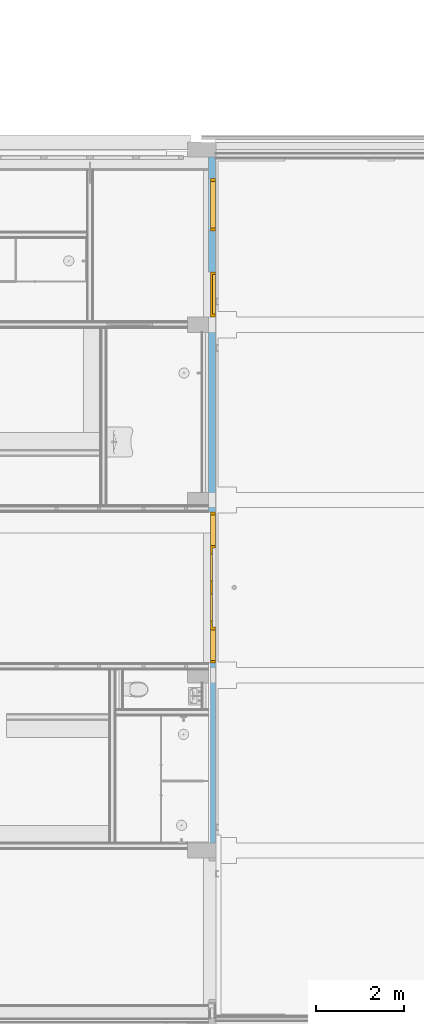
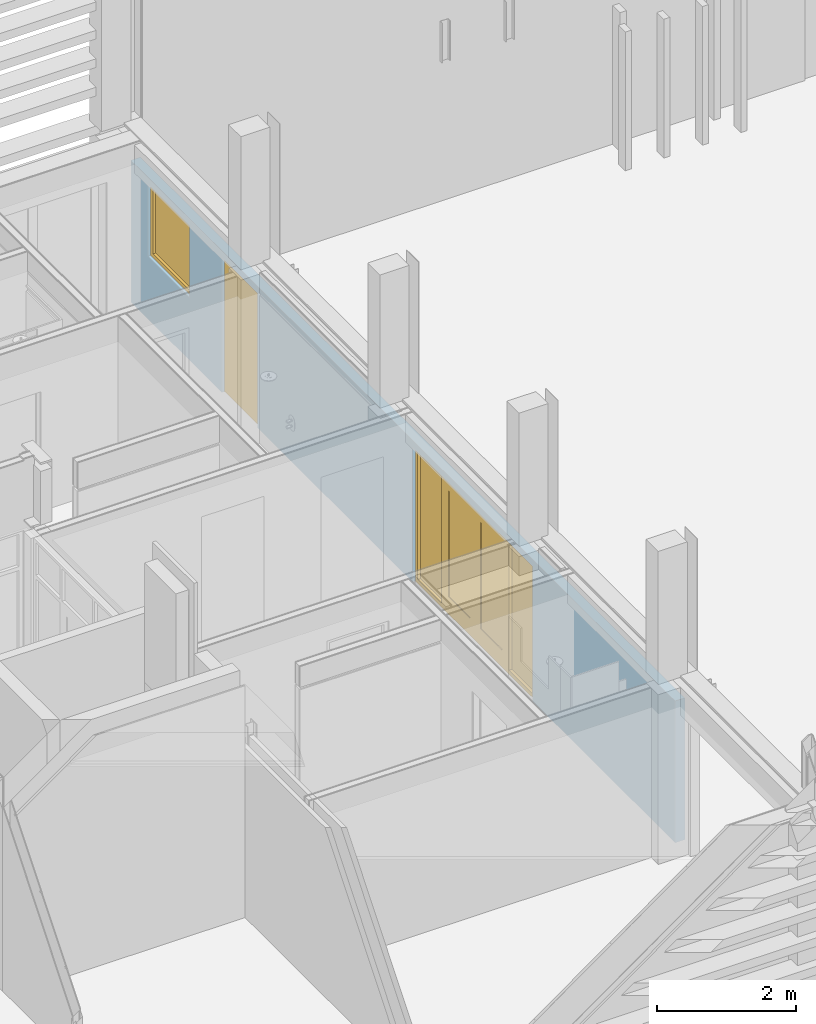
# One storey, part 21 of 109: 2 doors, 1 window, 4 openings, plus 1 element that does not belong to this part.
"""IFC2X3 building model written with IfcOpenShell, lengths in millimetres."""

import ifcopenshell
import ifcopenshell.guid

model = None  # the IFC model being written
_history = None  # IfcOwnerHistory: only IFC2X3 demands one
_inside = {}  # id of a spatial element -> (the spatial element, [elements in it])
_under = {}  # id of a project, library or spatial element -> (it, [spatial elements below it])
_declared = {}  # id of a project -> (the project, [libraries it declares])
_typed = {}  # id of a type object -> (the type object, [elements of that type])
_made_of = {}  # id of a material, layer set ... -> (it, [elements and type objects made of it])


def new_model(schema):
    """Start an empty IFC model of exactly this schema.

    Asked for "IFC4X3", IfcOpenShell would pick the latest addendum, in which some entities
    have other attributes; the version numbers below select the first issue.
    IFC2X3 requires an IfcOwnerHistory on every rooted entity: one is made here for all.
    """
    global model, _history
    if schema == "IFC4X3":
        model = ifcopenshell.file(schema_version=(4, 3, 0, 0))
    else:
        model = ifcopenshell.file(schema=schema)
    _inside.clear()
    _under.clear()
    _declared.clear()
    _typed.clear()
    _made_of.clear()
    _history = None
    if model.schema == "IFC2X3":
        org = make("IfcOrganization", Name="unknown")
        user = make(
            "IfcPersonAndOrganization",
            ThePerson=make("IfcPerson", FamilyName="unknown"),
            TheOrganization=org,
        )
        app = make(
            "IfcApplication",
            ApplicationDeveloper=org,
            Version="unknown",
            ApplicationFullName="unknown",
            ApplicationIdentifier="unknown",
        )
        _history = make(
            "IfcOwnerHistory",
            OwningUser=user,
            OwningApplication=app,
            ChangeAction="ADDED",
            CreationDate=0,
        )
    return model


def make(cls, **values):
    """One entity of the class cls with the attributes given. An attribute that is None is left unset."""
    return model.create_entity(
        cls, **{name: value for name, value in values.items() if value is not None}
    )


def entity(cls, *values):
    """Any entity or typed value of the class cls, its attributes in the order of the schema. None: left unset."""
    e = model.create_entity(cls)
    for i, value in enumerate(values):
        if value is not None:
            e[i] = value
    return e


def rooted(cls, **values):
    """An entity with a GlobalId (a new one), such as an element, a storey or a relation."""
    return make(cls, GlobalId=ifcopenshell.guid.new(), OwnerHistory=_history, **values)


def si_unit(unit_type, name, prefix=None):
    """IfcSIUnit, for example si_unit("LENGTHUNIT", "METRE", prefix="MILLI")."""
    return make("IfcSIUnit", UnitType=unit_type, Prefix=prefix, Name=name)


def converted_unit(unit_type, name, factor, base, dimensions=None, offset=None):
    """IfcConversionBasedUnit, such as the inch: factor (a typed value) times the base unit."""
    return make(
        "IfcConversionBasedUnit"
        if offset is None
        else "IfcConversionBasedUnitWithOffset",
        ConversionOffset=offset,
        Dimensions=None
        if dimensions is None
        else entity("IfcDimensionalExponents", *dimensions),
        UnitType=unit_type,
        Name=name,
        ConversionFactor=make(
            "IfcMeasureWithUnit", ValueComponent=factor, UnitComponent=base
        ),
    )


def derived_unit(unit_type, elements):
    """IfcDerivedUnit: a product of units, each with its exponent."""
    return make(
        "IfcDerivedUnit",
        Elements=[
            make("IfcDerivedUnitElement", Unit=unit, Exponent=power)
            for unit, power in elements
        ],
        UnitType=unit_type,
    )


def money_unit(currency):
    """IfcMonetaryUnit."""
    return make("IfcMonetaryUnit", Currency=currency)


def assignment(units):
    """IfcUnitAssignment: the units of a project."""
    return None if units is None else make("IfcUnitAssignment", Units=units)


def point(xyz):
    """IfcCartesianPoint."""
    return None if xyz is None else make("IfcCartesianPoint", Coordinates=xyz)


def direction(xyz):
    """IfcDirection."""
    return None if xyz is None else make("IfcDirection", DirectionRatios=xyz)


def frame(location, z_axis=None, x_axis=None):
    """IfcAxis2Placement3D, a coordinate frame: its origin and axes. An axis left out is left unset."""
    return make(
        "IfcAxis2Placement3D",
        Location=point(location),
        Axis=direction(z_axis),
        RefDirection=direction(x_axis),
    )


def origin_with_axes():
    """The frame at (0, 0, 0) with the z axis (0, 0, 1) and the x axis (1, 0, 0) written out."""
    return frame((0.0, 0.0, 0.0), z_axis=(0.0, 0.0, 1.0), x_axis=(1.0, 0.0, 0.0))


def place(relative_to, where):
    """IfcLocalPlacement: puts the frame where relative to a parent placement (None: the world)."""
    return make(
        "IfcLocalPlacement", PlacementRelTo=relative_to, RelativePlacement=where
    )


def context(
    kind, dimensions, precision=None, world=None, true_north=None, identifier=None
):
    """IfcGeometricRepresentationContext, for example the 3D "Model" context."""
    return make(
        "IfcGeometricRepresentationContext",
        ContextIdentifier=identifier,
        ContextType=kind,
        CoordinateSpaceDimension=dimensions,
        Precision=precision,
        WorldCoordinateSystem=world,
        TrueNorth=true_north,
    )


def subcontext(parent, identifier, kind, view, scale=None):
    """IfcGeometricRepresentationSubContext, for example "Body" below "Model"."""
    return make(
        "IfcGeometricRepresentationSubContext",
        ContextIdentifier=identifier,
        ContextType=kind,
        ParentContext=parent,
        TargetScale=scale,
        TargetView=view,
    )


def project(units=None, contexts=None):
    """IfcProject with its units and contexts."""
    return rooted(
        "IfcProject",
        Name="project",
        RepresentationContexts=contexts,
        UnitsInContext=assignment(units),
    )


def spatial(cls, under=None, at=None, **own):
    """A site, building, storey or space (cls), placed at a placement, below another one or the project."""
    s = rooted(cls, ObjectPlacement=at, **own)
    if under is not None:
        _under.setdefault(under.id(), (under, []))[1].append(s)
    return s


def faces_of(points, faces, orient=None, outer=None):
    """IfcFace entities. A face is a list of loops; a loop is a list of indices into points, from 0.

    orient and outer hold one flag for each loop. By default every Orientation is true, the
    first loop of a face is its IfcFaceOuterBound and the others are IfcFaceBound.
    """
    made = []
    for i, loops in enumerate(faces):
        bounds = []
        for j, loop in enumerate(loops):
            is_outer = j == 0 if outer is None else outer[i][j]
            bounds.append(
                make(
                    "IfcFaceOuterBound" if is_outer else "IfcFaceBound",
                    Bound=make("IfcPolyLoop", Polygon=[points[k] for k in loop]),
                    Orientation=True if orient is None else orient[i][j],
                )
            )
        made.append(make("IfcFace", Bounds=bounds))
    return made


def open_shell(faces, orient=None, outer=None):
    """The faces of one IfcOpenShell. surface_model builds it on its shared points."""
    return ("IfcOpenShell", faces, orient, outer)


def faceted_brep(points, faces, orient=None, outer=None, voids=None):
    """IfcFacetedBrep: a solid bounded by flat faces; with voids (closed shells), ...WithVoids."""
    shared = [point(p) for p in points]
    hull = make("IfcClosedShell", CfsFaces=faces_of(shared, faces, orient, outer))
    if voids is None:
        return make("IfcFacetedBrep", Outer=hull)
    return make(
        "IfcFacetedBrepWithVoids",
        Outer=hull,
        Voids=[
            make(cls, CfsFaces=faces_of(shared, fs, o, b)) for cls, fs, o, b in voids
        ],
    )


def surface_model(cls, points, shells):
    """IfcFaceBasedSurfaceModel or IfcShellBasedSurfaceModel (cls): surfaces that need not close."""
    shared = [point(p) for p in points]
    made = [make(c, CfsFaces=faces_of(shared, fs, o, b)) for c, fs, o, b in shells]
    if cls == "IfcFaceBasedSurfaceModel":
        return make(cls, FbsmFaces=made)
    return make(cls, SbsmBoundary=made)


def shape(context_of_items, identifier, shape_type, items):
    """IfcShapeRepresentation: the items that make up one representation, for example the "Body"."""
    return make(
        "IfcShapeRepresentation",
        ContextOfItems=context_of_items,
        RepresentationIdentifier=identifier,
        RepresentationType=shape_type,
        Items=items,
    )


def material(Name=None, Category=None):
    """IfcMaterial."""
    return make("IfcMaterial", Name=Name, Category=Category)


def made_of(thing, what):
    """Note that an element or type object is made of a material, layer set ...; save() writes the relation."""
    if what is not None:
        _made_of.setdefault(what.id(), (what, []))[1].append(thing)
    return thing


def type_object(cls, material=None, **own):
    """A type object (cls), such as IfcWallType, which elements share."""
    return made_of(rooted(cls, **own), material)


def element(
    cls,
    number,
    at=None,
    inside=None,
    cuts=None,
    type_object=None,
    material=None,
    context=None,
    identifier="Body",
    shape_type=None,
    held_by="IfcProductDefinitionShape",
    body=None,
    shapes=None,
    **own,
):
    """One element of the class cls, such as IfcWall. Its Tag is "e" and its number.

    at: its placement. inside: the storey or other place that contains it. cuts: it is an
    opening in that element (IfcRelVoidsElement). A single representation is given by context,
    identifier, shape_type and body (its items); several are given by shapes. held_by: the class
    of the entity that holds the representations. save() writes the other relations.
    """
    e = rooted(cls, Tag="e%d" % number, ObjectPlacement=at, **own)
    if body is not None:
        shapes = [shape(context, identifier, shape_type, body)]
    if shapes is not None:
        e.Representation = make(held_by, Representations=shapes)
    if inside is not None:
        _inside.setdefault(inside.id(), (inside, []))[1].append(e)
    if cuts is not None:
        rooted(
            "IfcRelVoidsElement", RelatingBuildingElement=cuts, RelatedOpeningElement=e
        )
    if type_object is not None:
        _typed.setdefault(type_object.id(), (type_object, []))[1].append(e)
    return made_of(e, material)


def fill(opening, filler):
    """IfcRelFillsElement: the door or window that sits in an opening."""
    return rooted(
        "IfcRelFillsElement",
        RelatingOpeningElement=opening,
        RelatedBuildingElement=filler,
    )


def aggregate(whole, parts):
    """IfcRelAggregates: a whole, such as a stair, and the parts it consists of."""
    return rooted("IfcRelAggregates", RelatingObject=whole, RelatedObjects=parts)


def save(model, path):
    """Write the relations noted so far, then the file.

    IfcRelAggregates (storeys below a building ...), IfcRelContainedInSpatialStructure (elements
    in a storey), IfcRelDefinesByType, IfcRelAssociatesMaterial and IfcRelDeclares: one each for
    every whole, place, type object, material and project.
    """
    for whole, parts in _under.values():
        aggregate(whole, parts)
    for where, things in _inside.values():
        rooted(
            "IfcRelContainedInSpatialStructure",
            RelatedElements=things,
            RelatingStructure=where,
        )
    for kind, things in _typed.values():
        rooted("IfcRelDefinesByType", RelatedObjects=things, RelatingType=kind)
    for what, things in _made_of.values():
        rooted("IfcRelAssociatesMaterial", RelatedObjects=things, RelatingMaterial=what)
    for by, libraries in _declared.values():
        rooted("IfcRelDeclares", RelatingContext=by, RelatedDefinitions=libraries)
    model.write(path)


model = new_model("IFC2X3")

# Units and contexts
model_context = context("Model", 3, precision=0.01, world=origin_with_axes(), true_north=direction((0.0, 1.0)))
body_context = subcontext(model_context, "Body", "Model", "MODEL_VIEW")
ifc_project = project(units=[si_unit("LENGTHUNIT", "METRE", prefix="MILLI"), si_unit("AREAUNIT", "SQUARE_METRE"), si_unit("VOLUMEUNIT", "CUBIC_METRE"), converted_unit("PLANEANGLEUNIT", "DEGREE", entity("IfcPlaneAngleMeasure", 0.0174532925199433), si_unit("PLANEANGLEUNIT", "RADIAN"), dimensions=[0, 0, 0, 0, 0, 0, 0]), money_unit("EUR"), converted_unit("TIMEUNIT", "Year", entity("IfcTimeMeasure", 31557600.0), si_unit("TIMEUNIT", "SECOND"), dimensions=[0, 0, 1, 0, 0, 0, 0]), si_unit("MASSUNIT", "GRAM", prefix="KILO"), si_unit("THERMODYNAMICTEMPERATUREUNIT", "DEGREE_CELSIUS"), si_unit("LUMINOUSINTENSITYUNIT", "LUMEN"), si_unit("ENERGYUNIT", "JOULE", prefix="MEGA"), derived_unit("THERMALCONDUCTANCEUNIT", [(si_unit("POWERUNIT", "WATT"), 1), (si_unit("LENGTHUNIT", "METRE"), -1), (si_unit("THERMODYNAMICTEMPERATUREUNIT", "KELVIN"), -1)]), derived_unit("SPECIFICHEATCAPACITYUNIT", [(si_unit("ENERGYUNIT", "JOULE"), 1), (si_unit("MASSUNIT", "GRAM", prefix="KILO"), -1), (si_unit("THERMODYNAMICTEMPERATUREUNIT", "KELVIN"), -1)]), derived_unit("MASSDENSITYUNIT", [(si_unit("MASSUNIT", "GRAM", prefix="KILO"), 1), (si_unit("VOLUMEUNIT", "CUBIC_METRE"), -1)])], contexts=[model_context])

# Site, building, storey
site_placement = place(None, origin_with_axes())
site = spatial("IfcSite", under=ifc_project, at=site_placement, Name="<site naam>", CompositionType="ELEMENT")
building_placement = place(site_placement, origin_with_axes())
building = spatial("IfcBuilding", under=site, at=building_placement, Name="<Naam gebouw>", CompositionType="ELEMENT")
storey_placement = place(building_placement, origin_with_axes())
storey = spatial("IfcBuildingStorey", under=building, at=storey_placement, Name="00 Begane grond", CompositionType="ELEMENT", Elevation=0.0)

# Wall, openings, window, doors
ifc_material = material(Name="beton")
wall_type = type_object("IfcWallType", Name="beton 160", PredefinedType="NOTDEFINED")
wall_placement = place(storey_placement, frame((58317.78284470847, 19824.99999999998, 0.0), z_axis=(0.0, 0.0, 1.0), x_axis=(0.0, -1.0, 0.0)))
wall = element("IfcWall", 1, at=wall_placement, inside=storey, type_object=wall_type, material=ifc_material, Name="22_Binnenwand_beton", context=body_context, shape_type="Brep", body=[
    faceted_brep([(0.0, 0.0, 0.0), (0.0, -159.9999999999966, 0.0), (0.0, -159.9999999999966, 2487.5), (0.0, 0.0, 2487.5), (15649.99999999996, -160.0000000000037, 0.0), (15649.99999999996, 0.0, 0.0), (15649.99999999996, -160.0000000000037, 2487.5), (15649.99999999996, 0.0, 2487.5)], [[[0, 1, 2, 3]], [[4, 1, 0, 5]], [[1, 4, 6, 2]], [[2, 6, 7, 3]], [[5, 0, 3, 7]], [[4, 5, 7, 6]]]),
])
opening_1_placement = place(wall_placement, frame((9824.999999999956, 0.0, 3187.5), z_axis=(0.0, 0.0, 1.0), x_axis=(1.0, 0.0, 0.0)))
element("IfcOpeningElement", 2, at=opening_1_placement, cuts=wall, Name="22_54-x_305", context=body_context, shape_type="Brep", body=[
    faceted_brep([(-1725.0, -160.9999999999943, 1062.5), (-1725.0, -160.9999999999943, 0.0), (1725.0, -160.9999999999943, 0.0), (1725.0, -160.9999999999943, 1062.5), (-1725.0, 0.9999999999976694, 1062.5), (-1725.0, 0.9999999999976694, 0.0), (1725.0, 0.9999999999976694, 0.0), (1725.0, 0.9999999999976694, 1062.5)], [[[0, 1, 2, 3]], [[4, 5, 1, 0]], [[5, 6, 2, 1]], [[6, 7, 3, 2]], [[7, 4, 0, 3]], [[6, 5, 4, 7]]]),
])
opening_2_placement = place(wall_placement, frame((1089.246352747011, 0.0, 1100.0), z_axis=(0.0, 0.0, 1.0), x_axis=(1.0, 0.0, 0.0)))
opening_2 = element("IfcOpeningElement", 3, at=opening_2_placement, cuts=wall, Name="22_BI-E-21_305", context=body_context, shape_type="Brep", body=[
    faceted_brep([(-600.0000000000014, -160.9999999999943, 1267.0), (-600.0000000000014, -160.9999999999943, 0.0), (600.0000000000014, -160.9999999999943, 0.0), (600.0000000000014, -160.9999999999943, 1267.0), (-600.0000000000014, 0.9999999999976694, 1267.0), (-600.0000000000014, 0.9999999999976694, 0.0), (600.0000000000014, 0.9999999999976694, 0.0), (600.0000000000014, 0.9999999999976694, 1267.0)], [[[0, 1, 2, 3]], [[4, 5, 1, 0]], [[5, 6, 2, 1]], [[6, 7, 3, 2]], [[7, 4, 0, 3]], [[6, 5, 4, 7]]]),
])
opening_3_placement = place(wall_placement, frame((9824.999999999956, 0.0, 0.0), z_axis=(0.0, 0.0, 1.0), x_axis=(1.0, 0.0, 0.0)))
opening_3 = element("IfcOpeningElement", 4, at=opening_3_placement, cuts=wall, Name="22_BI-D-05_305", context=body_context, shape_type="Brep", body=[
    faceted_brep([(-1724.999999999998, -160.9999999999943, 2367.0), (-1724.999999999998, -160.9999999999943, 0.0), (1724.999999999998, -160.9999999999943, 0.0), (1724.999999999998, -160.9999999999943, 2367.0), (-1724.999999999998, 0.9999999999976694, 2367.0), (-1724.999999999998, 0.9999999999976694, 0.0), (1724.999999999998, 0.9999999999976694, 0.0), (1724.999999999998, 0.9999999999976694, 2367.0)], [[[0, 1, 2, 3]], [[4, 5, 1, 0]], [[5, 6, 2, 1]], [[6, 7, 3, 2]], [[7, 4, 0, 3]], [[6, 5, 4, 7]]]),
])
opening_4_placement = place(wall_placement, frame((3132.999999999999, 0.0, 0.0), z_axis=(0.0, 0.0, 1.0), x_axis=(1.0, 0.0, 0.0)))
opening_4 = element("IfcOpeningElement", 5, at=opening_4_placement, cuts=wall, Name="22_BI-A-05_305", context=body_context, shape_type="Brep", body=[
    faceted_brep([(-516.9999999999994, -160.9999999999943, 2367.0), (-516.9999999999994, -160.9999999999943, 0.0), (516.9999999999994, -160.9999999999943, 0.0), (516.9999999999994, -160.9999999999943, 2367.0), (-516.9999999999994, 0.9999999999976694, 2367.0), (-516.9999999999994, 0.9999999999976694, 0.0), (516.9999999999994, 0.9999999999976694, 0.0), (516.9999999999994, 0.9999999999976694, 2367.0)], [[[0, 1, 2, 3]], [[4, 5, 1, 0]], [[5, 6, 2, 1]], [[6, 7, 3, 2]], [[7, 4, 0, 3]], [[6, 5, 4, 7]]]),
])
window_style = type_object("IfcWindowStyle", Name="R1 27", ConstructionType="NOTDEFINED", OperationType="SINGLE_PANEL", ParameterTakesPrecedence=False, Sizeable=False)
window_placement = place(opening_2_placement, frame((600.0000000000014, 0.0, 0.0), z_axis=(0.0, 0.0, 1.0), x_axis=(-1.0, 0.0, 0.0)))
window = element("IfcWindow", 6, at=window_placement, inside=storey, type_object=window_style, Name="22_BI-E-21_305", ObjectType="WINDOW", OverallHeight=1267.0, OverallWidth=1200.0, context=body_context, shape_type="SurfaceModel", body=[
    faceted_brep([(67.00000000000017, 0.0, 1200.0), (67.00000000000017, 113.9999999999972, 1200.0), (0.0, 113.9999999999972, 1200.0), (0.0, 0.0, 1200.0), (67.00000000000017, 0.0, 66.99999999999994), (67.00000000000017, 113.9999999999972, 66.99999999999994), (0.0, 113.9999999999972, 66.99999999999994), (0.0, 0.0, 66.99999999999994)], [[[0, 1, 2, 3]], [[4, 5, 1, 0]], [[1, 5, 6, 2]], [[3, 2, 6, 7]], [[0, 3, 7, 4]], [[7, 6, 5, 4]]]),
    faceted_brep([(1133.000000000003, 0.0, 66.99999999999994), (1133.000000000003, 113.9999999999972, 66.99999999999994), (1200.000000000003, 113.9999999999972, 66.99999999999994), (1200.000000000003, 0.0, 66.99999999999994), (1133.000000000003, 0.0, 1200.0), (1133.000000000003, 113.9999999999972, 1200.0), (1200.000000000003, 113.9999999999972, 1200.0), (1200.000000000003, 0.0, 1200.0)], [[[0, 1, 2, 3]], [[4, 5, 1, 0]], [[1, 5, 6, 2]], [[3, 2, 6, 7]], [[0, 3, 7, 4]], [[7, 6, 5, 4]]]),
    faceted_brep([(67.00000000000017, 0.0, 66.99999999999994), (67.00000000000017, 113.9999999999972, 66.99999999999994), (0.0, 113.9999999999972, 66.99999999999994), (0.0, 0.0, 66.99999999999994), (1133.000000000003, 0.0, 66.99999999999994), (1133.000000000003, 113.9999999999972, 66.99999999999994), (1200.000000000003, 113.9999999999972, 66.99999999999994), (1200.000000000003, 113.9999999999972, 0.0), (0.0, 113.9999999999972, 0.0), (0.0, 0.0, 0.0), (1200.000000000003, 0.0, 0.0), (1200.000000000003, 0.0, 66.99999999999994)], [[[0, 1, 2, 3]], [[4, 5, 1, 0]], [[1, 5, 6, 7, 8, 2]], [[3, 2, 8, 9]], [[0, 3, 9, 10, 11, 4]], [[11, 6, 5, 4]], [[10, 7, 6, 11]], [[9, 8, 7, 10]]]),
    faceted_brep([(1133.000000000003, 0.0, 1200.0), (1133.000000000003, 113.9999999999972, 1200.0), (1200.000000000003, 113.9999999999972, 1200.0), (1200.000000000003, 0.0, 1200.0), (67.00000000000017, 0.0, 1200.0), (67.00000000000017, 113.9999999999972, 1200.0), (0.0, 113.9999999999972, 1200.0), (0.0, 113.9999999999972, 1267.0), (1200.000000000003, 113.9999999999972, 1267.0), (1200.000000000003, 0.0, 1267.0), (0.0, 0.0, 1267.0), (0.0, 0.0, 1200.0)], [[[0, 1, 2, 3]], [[4, 5, 1, 0]], [[1, 5, 6, 7, 8, 2]], [[3, 2, 8, 9]], [[0, 3, 9, 10, 11, 4]], [[11, 6, 5, 4]], [[10, 7, 6, 11]], [[9, 8, 7, 10]]]),
    surface_model("IfcShellBasedSurfaceModel", [(67.00000000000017, 49.99999999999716, 66.99999999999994), (1133.000000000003, 49.99999999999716, 66.99999999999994), (1133.000000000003, 49.99999999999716, 1200.0), (67.00000000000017, 49.99999999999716, 1200.0)], [open_shell([[[0, 1, 2, 3]]])]),
    surface_model("IfcShellBasedSurfaceModel", [(67.00000000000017, 70.00000000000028, 66.99999999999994), (67.00000000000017, 70.00000000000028, 1200.0), (1133.000000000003, 70.00000000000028, 1200.0), (1133.000000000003, 70.00000000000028, 66.99999999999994)], [open_shell([[[0, 1, 2, 3]]])]),
])
fill(opening_2, window)
door_style_1 = type_object("IfcDoorStyle", Name="D2 zl2 27", ConstructionType="NOTDEFINED", OperationType="USERDEFINED", ParameterTakesPrecedence=False, Sizeable=False)
door_1_placement = place(opening_3_placement, frame((1724.999999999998, 0.0, 0.0), z_axis=(0.0, 0.0, 1.0), x_axis=(-1.0, 0.0, 0.0)))
door_1 = element("IfcDoor", 7, at=door_1_placement, inside=storey, type_object=door_style_1, Name="22_BI-D-05_305", ObjectType="DOOR", OverallHeight=2367.0, OverallWidth=3450.0, context=body_context, shape_type="SurfaceModel", body=[
    faceted_brep([(3449.999999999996, 113.9999999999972, 0.0), (3449.999999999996, 0.0, 0.0), (3382.999999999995, 0.0, 0.0), (3382.999999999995, 113.9999999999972, 0.0), (3449.999999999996, 113.9999999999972, 2300.0), (3449.999999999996, 0.0, 2300.0), (3382.999999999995, 0.0, 2300.0), (3382.999999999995, 0.0, 66.99999999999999), (3382.999999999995, 113.9999999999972, 67.0), (3382.999999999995, 113.9999999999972, 2300.0)], [[[0, 1, 2, 3]], [[4, 5, 1, 0]], [[1, 5, 6, 7, 2]], [[3, 2, 7, 8]], [[0, 3, 8, 9, 4]], [[9, 6, 5, 4]], [[8, 7, 6, 9]]]),
    faceted_brep([(2624.999999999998, 73.99999999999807, 0.0), (2624.999999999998, 0.0, 0.0), (2624.999999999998, 0.0, 2300.0), (2624.999999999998, 73.99999999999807, 2300.0), (2641.999999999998, 73.99999999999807, 0.0), (2641.999999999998, 113.9999999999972, 0.0), (2691.999999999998, 113.9999999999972, 0.0), (2691.999999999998, 0.0, 0.0), (2691.999999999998, 0.0, 66.99999999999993), (2691.999999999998, 0.0, 2300.0), (2641.999999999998, 73.99999999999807, 2300.0), (2691.999999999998, 113.9999999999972, 2300.0), (2641.999999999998, 113.9999999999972, 2300.0), (2691.999999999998, 113.9999999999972, 66.99999999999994)], [[[0, 1, 2, 3]], [[4, 5, 6, 7, 1, 0]], [[7, 8, 9, 2, 1]], [[10, 3, 2, 9, 11, 12]], [[10, 4, 0, 3]], [[12, 5, 4, 10]], [[12, 11, 13, 6, 5]], [[6, 13, 8, 7]], [[13, 11, 9, 8]]]),
    faceted_brep([(3382.999999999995, 113.9999999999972, 67.0), (3382.999999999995, 0.0, 66.99999999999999), (3382.999999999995, 0.0, 0.0), (3382.999999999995, 113.9999999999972, 0.0), (2691.999999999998, 113.9999999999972, 67.0), (2691.999999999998, 0.0, 66.99999999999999), (2691.999999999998, 0.0, 0.0), (2691.999999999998, 113.9999999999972, 0.0)], [[[0, 1, 2, 3]], [[4, 5, 1, 0]], [[1, 5, 6, 2]], [[3, 2, 6, 7]], [[0, 3, 7, 4]], [[7, 6, 5, 4]]]),
    faceted_brep([(0.0, 113.9999999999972, 0.0), (0.0, 0.0, 0.0), (0.0, 0.0, 2300.0), (0.0, 113.9999999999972, 2300.0), (67.00000000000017, 113.9999999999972, 0.0), (67.00000000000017, 0.0, 0.0), (67.00000000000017, 0.0, 66.99999999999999), (67.00000000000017, 0.0, 2300.0), (67.00000000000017, 113.9999999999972, 2300.0), (67.00000000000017, 113.9999999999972, 67.0)], [[[0, 1, 2, 3]], [[4, 5, 1, 0]], [[1, 5, 6, 7, 2]], [[3, 2, 7, 8]], [[0, 3, 8, 9, 4]], [[9, 6, 5, 4]], [[8, 7, 6, 9]]]),
    faceted_brep([(807.9999999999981, 73.99999999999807, 2300.0), (807.9999999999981, 113.9999999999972, 2300.0), (757.9999999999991, 113.9999999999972, 2300.0), (757.9999999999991, 0.0, 2300.0), (824.9999999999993, 0.0, 2300.0), (824.9999999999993, 73.99999999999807, 2300.0), (807.9999999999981, 73.99999999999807, 0.0), (807.9999999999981, 113.9999999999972, 0.0), (757.9999999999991, 113.9999999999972, 0.0), (757.9999999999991, 113.9999999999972, 66.99999999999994), (757.9999999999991, 0.0, 66.99999999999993), (824.9999999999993, 0.0, 0.0), (757.9999999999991, 0.0, 0.0), (824.9999999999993, 73.99999999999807, 0.0)], [[[0, 1, 2, 3, 4, 5]], [[0, 6, 7, 1]], [[7, 8, 9, 2, 1]], [[2, 9, 10, 3]], [[11, 4, 3, 10, 12]], [[5, 4, 11, 13]], [[5, 13, 6, 0]], [[6, 13, 11, 12, 8, 7]], [[9, 8, 12, 10]]]),
    faceted_brep([(757.9999999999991, 113.9999999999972, 67.0), (757.9999999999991, 0.0, 66.99999999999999), (757.9999999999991, 0.0, 0.0), (757.9999999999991, 113.9999999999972, 0.0), (67.00000000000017, 113.9999999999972, 67.0), (67.00000000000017, 0.0, 66.99999999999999), (67.00000000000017, 0.0, 0.0), (67.00000000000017, 113.9999999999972, 0.0)], [[[0, 1, 2, 3]], [[4, 5, 1, 0]], [[1, 5, 6, 2]], [[3, 2, 6, 7]], [[0, 3, 7, 4]], [[7, 6, 5, 4]]]),
    faceted_brep([(2641.999999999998, 113.9999999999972, 2317.0), (807.9999999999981, 113.9999999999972, 2317.0), (807.9999999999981, 113.9999999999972, 2300.0), (757.9999999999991, 113.9999999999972, 2300.0), (67.00000000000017, 113.9999999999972, 2300.0), (0.0, 113.9999999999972, 2300.0), (0.0, 113.9999999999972, 2367.0), (3449.999999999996, 113.9999999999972, 2367.0), (3449.999999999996, 113.9999999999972, 2300.0), (3382.999999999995, 113.9999999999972, 2300.0), (2691.999999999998, 113.9999999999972, 2300.0), (2641.999999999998, 113.9999999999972, 2300.0), (2641.999999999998, 73.99999999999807, 2317.0), (807.9999999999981, 73.99999999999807, 2317.0), (807.9999999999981, 73.99999999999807, 2300.0), (824.9999999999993, 73.99999999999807, 2300.0), (824.9999999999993, 0.0, 2300.0), (757.9999999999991, 0.0, 2300.0), (67.00000000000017, 0.0, 2300.0), (0.0, 0.0, 2300.0), (0.0, 0.0, 2367.0), (3449.999999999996, 0.0, 2367.0), (3449.999999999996, 0.0, 2300.0), (3382.999999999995, 0.0, 2300.0), (2691.999999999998, 0.0, 2300.0), (2641.999999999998, 73.99999999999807, 2300.0), (2624.999999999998, 0.0, 2300.0)], [[[0, 1, 2, 3, 4, 5, 6, 7, 8, 9, 10, 11]], [[0, 12, 13, 1]], [[1, 13, 14, 2]], [[14, 15, 16, 17, 18, 4, 3, 2]], [[5, 4, 18, 19]], [[6, 5, 19, 20]], [[7, 6, 20, 21]], [[8, 7, 21, 22]], [[9, 8, 22, 23]], [[10, 9, 23, 24]], [[25, 11, 10, 24, 26, 16, 15]], [[11, 25, 12, 0]], [[14, 13, 12, 25, 15]], [[18, 17, 16, 26, 24, 23, 22, 21, 20, 19]]]),
    faceted_brep([(807.9999999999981, 113.9999999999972, 300.0), (957.9999999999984, 113.9999999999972, 300.0), (957.9999999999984, 73.99999999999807, 300.0), (807.9999999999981, 73.99999999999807, 300.0), (807.9999999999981, 113.9999999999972, 2167.0), (957.9999999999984, 113.9999999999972, 2167.0), (957.9999999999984, 73.99999999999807, 2167.0), (807.9999999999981, 73.99999999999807, 2167.0)], [[[0, 1, 2, 3]], [[0, 4, 5, 1]], [[1, 5, 6, 2]], [[3, 2, 6, 7]], [[4, 0, 3, 7]], [[5, 4, 7, 6]]]),
    faceted_brep([(1724.999999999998, 113.9999999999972, 300.0), (1724.999999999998, 113.9999999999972, 2167.0), (1724.999999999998, 73.99999999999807, 2167.0), (1724.999999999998, 73.99999999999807, 300.0), (1574.999999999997, 113.9999999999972, 300.0), (1574.999999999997, 113.9999999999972, 2167.0), (1574.999999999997, 73.99999999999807, 2167.0), (1574.999999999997, 73.99999999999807, 300.0)], [[[0, 1, 2, 3]], [[0, 4, 5, 1]], [[1, 5, 6, 2]], [[3, 2, 6, 7]], [[4, 0, 3, 7]], [[5, 4, 7, 6]]]),
    faceted_brep([(807.9999999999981, 113.9999999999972, 0.0), (1724.999999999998, 113.9999999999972, 0.0), (1724.999999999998, 73.99999999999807, 0.0), (807.9999999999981, 73.99999999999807, 0.0), (807.9999999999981, 113.9999999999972, 300.0), (957.9999999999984, 113.9999999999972, 300.0), (1574.999999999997, 113.9999999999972, 300.0), (1724.999999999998, 113.9999999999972, 300.0), (1724.999999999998, 73.99999999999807, 300.0), (1574.999999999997, 73.99999999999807, 300.0), (957.9999999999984, 73.99999999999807, 300.0), (807.9999999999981, 73.99999999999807, 300.0)], [[[0, 1, 2, 3]], [[0, 4, 5, 6, 7, 1]], [[1, 7, 8, 2]], [[3, 2, 8, 9, 10, 11]], [[4, 0, 3, 11]], [[5, 4, 11, 10]], [[6, 5, 10, 9]], [[7, 6, 9, 8]]]),
    faceted_brep([(807.9999999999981, 113.9999999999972, 2317.0), (807.9999999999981, 113.9999999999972, 2167.0), (807.9999999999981, 73.99999999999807, 2167.0), (807.9999999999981, 73.99999999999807, 2317.0), (1724.999999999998, 113.9999999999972, 2317.0), (1724.999999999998, 113.9999999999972, 2167.0), (1574.999999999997, 113.9999999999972, 2167.0), (957.9999999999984, 113.9999999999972, 2167.0), (957.9999999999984, 73.99999999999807, 2167.0), (1574.999999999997, 73.99999999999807, 2167.0), (1724.999999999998, 73.99999999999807, 2167.0), (1724.999999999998, 73.99999999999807, 2317.0)], [[[0, 1, 2, 3]], [[0, 4, 5, 6, 7, 1]], [[1, 7, 8, 2]], [[3, 2, 8, 9, 10, 11]], [[4, 0, 3, 11]], [[5, 4, 11, 10]], [[6, 5, 10, 9]], [[7, 6, 9, 8]]]),
    surface_model("IfcShellBasedSurfaceModel", [(957.9999999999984, 99.99999999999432, 300.0), (957.9999999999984, 99.99999999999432, 2167.0), (1574.999999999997, 99.99999999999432, 2167.0), (1574.999999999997, 99.99999999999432, 300.0)], [open_shell([[[0, 1, 2, 3]]])]),
    surface_model("IfcShellBasedSurfaceModel", [(957.9999999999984, 88.00000000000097, 300.0), (1574.999999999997, 87.99999999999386, 300.0), (1574.999999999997, 87.99999999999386, 2167.0), (957.9999999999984, 87.99999999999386, 2167.0)], [open_shell([[[0, 1, 2, 3]]])]),
    faceted_brep([(2641.999999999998, 113.9999999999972, 300.0), (2641.999999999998, 73.99999999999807, 300.0), (2491.999999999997, 73.99999999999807, 300.0), (2491.999999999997, 113.9999999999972, 300.0), (2641.999999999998, 113.9999999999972, 2167.0), (2641.999999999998, 73.99999999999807, 2167.0), (2491.999999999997, 73.99999999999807, 2167.0), (2491.999999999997, 113.9999999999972, 2167.0)], [[[0, 1, 2, 3]], [[4, 5, 1, 0]], [[1, 5, 6, 2]], [[3, 2, 6, 7]], [[0, 3, 7, 4]], [[7, 6, 5, 4]]]),
    faceted_brep([(1724.999999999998, 113.9999999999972, 300.0), (1724.999999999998, 73.99999999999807, 300.0), (1724.999999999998, 73.99999999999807, 2167.0), (1724.999999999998, 113.9999999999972, 2167.0), (1874.999999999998, 113.9999999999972, 300.0), (1874.999999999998, 73.99999999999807, 300.0), (1874.999999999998, 73.99999999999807, 2167.0), (1874.999999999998, 113.9999999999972, 2167.0)], [[[0, 1, 2, 3]], [[4, 5, 1, 0]], [[1, 5, 6, 2]], [[3, 2, 6, 7]], [[0, 3, 7, 4]], [[7, 6, 5, 4]]]),
    faceted_brep([(2641.999999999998, 113.9999999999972, 0.0), (2641.999999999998, 73.99999999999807, 0.0), (1724.999999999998, 73.99999999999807, 0.0), (1724.999999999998, 113.9999999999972, 0.0), (2641.999999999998, 113.9999999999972, 300.0), (2641.999999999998, 73.99999999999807, 300.0), (2491.999999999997, 73.99999999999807, 300.0), (1874.999999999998, 73.99999999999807, 300.0), (1724.999999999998, 73.99999999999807, 300.0), (1724.999999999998, 113.9999999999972, 300.0), (1874.999999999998, 113.9999999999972, 300.0), (2491.999999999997, 113.9999999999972, 300.0)], [[[0, 1, 2, 3]], [[4, 5, 1, 0]], [[1, 5, 6, 7, 8, 2]], [[3, 2, 8, 9]], [[0, 3, 9, 10, 11, 4]], [[11, 6, 5, 4]], [[10, 7, 6, 11]], [[9, 8, 7, 10]]]),
    faceted_brep([(2641.999999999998, 113.9999999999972, 2317.0), (2641.999999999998, 73.99999999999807, 2317.0), (2641.999999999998, 73.99999999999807, 2167.0), (2641.999999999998, 113.9999999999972, 2167.0), (1724.999999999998, 113.9999999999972, 2317.0), (1724.999999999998, 73.99999999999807, 2317.0), (1724.999999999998, 73.99999999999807, 2167.0), (1874.999999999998, 73.99999999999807, 2167.0), (2491.999999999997, 73.99999999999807, 2167.0), (2491.999999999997, 113.9999999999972, 2167.0), (1874.999999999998, 113.9999999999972, 2167.0), (1724.999999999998, 113.9999999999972, 2167.0)], [[[0, 1, 2, 3]], [[4, 5, 1, 0]], [[1, 5, 6, 7, 8, 2]], [[3, 2, 8, 9]], [[0, 3, 9, 10, 11, 4]], [[11, 6, 5, 4]], [[10, 7, 6, 11]], [[9, 8, 7, 10]]]),
    surface_model("IfcShellBasedSurfaceModel", [(2491.999999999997, 99.99999999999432, 300.0), (1874.999999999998, 99.99999999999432, 300.0), (1874.999999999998, 99.99999999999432, 2167.0), (2491.999999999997, 99.99999999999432, 2167.0)], [open_shell([[[0, 1, 2, 3]]])]),
    surface_model("IfcShellBasedSurfaceModel", [(2491.999999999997, 87.99999999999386, 300.0), (2491.999999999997, 87.99999999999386, 2167.0), (1874.999999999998, 87.99999999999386, 2167.0), (1874.999999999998, 87.99999999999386, 300.0)], [open_shell([[[0, 1, 2, 3]]])]),
    surface_model("IfcShellBasedSurfaceModel", [(3382.999999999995, 53.99999999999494, 67.0), (3382.999999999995, 53.99999999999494, 2300.0), (2691.999999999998, 53.99999999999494, 2300.0), (2691.999999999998, 53.99999999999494, 67.0)], [open_shell([[[0, 1, 2, 3]]])]),
    surface_model("IfcShellBasedSurfaceModel", [(3382.999999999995, 65.9999999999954, 67.0), (2691.999999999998, 65.9999999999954, 67.0), (2691.999999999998, 65.9999999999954, 2300.0), (3382.999999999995, 65.9999999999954, 2300.0)], [open_shell([[[0, 1, 2, 3]]])]),
    surface_model("IfcShellBasedSurfaceModel", [(757.9999999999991, 53.99999999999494, 67.0), (757.9999999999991, 53.99999999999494, 2300.0), (67.00000000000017, 53.99999999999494, 2300.0), (67.00000000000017, 53.99999999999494, 67.0)], [open_shell([[[0, 1, 2, 3]]])]),
    surface_model("IfcShellBasedSurfaceModel", [(757.9999999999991, 65.9999999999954, 67.0), (67.00000000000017, 65.9999999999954, 67.0), (67.00000000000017, 65.9999999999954, 2300.0), (757.9999999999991, 65.9999999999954, 2300.0)], [open_shell([[[0, 1, 2, 3]]])]),
])
fill(opening_3, door_1)
door_style_2 = type_object("IfcDoorStyle", Name="D1 27", ConstructionType="NOTDEFINED", OperationType="SINGLE_SWING_LEFT", ParameterTakesPrecedence=False, Sizeable=False)
door_2_placement = place(opening_4_placement, frame((449.9999999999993, 0.0, 0.0), z_axis=(0.0, 0.0, 1.0), x_axis=(-1.0, 0.0, 0.0)))
door_2 = element("IfcDoor", 8, at=door_2_placement, inside=storey, type_object=door_style_2, Name="22_BI-A-05_305", ObjectType="DOOR", OverallHeight=2367.0, OverallWidth=1034.0, context=body_context, shape_type="Brep", body=[
    faceted_brep([(0.0, 0.0, 0.0), (0.0, 0.0, 11.99999999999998), (0.0, 73.99999999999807, 11.99999999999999), (0.0, 73.99999999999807, 0.0), (899.9999999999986, 0.0, 0.0), (899.9999999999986, 0.0, 11.99999999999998), (899.9999999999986, 73.99999999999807, 11.99999999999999), (916.9999999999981, 73.99999999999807, 11.99999999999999), (-16.99999999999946, 73.99999999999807, 11.99999999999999), (-16.99999999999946, 73.99999999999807, 0.0), (916.9999999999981, 73.99999999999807, 0.0), (899.9999999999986, 73.99999999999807, 0.0)], [[[0, 1, 2, 3]], [[4, 5, 1, 0]], [[1, 5, 6, 7, 8, 2]], [[3, 2, 8, 9]], [[0, 3, 9, 10, 11, 4]], [[11, 6, 5, 4]], [[10, 7, 6, 11]], [[9, 8, 7, 10]]]),
    faceted_brep([(899.9999999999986, 73.99999999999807, 0.0), (899.9999999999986, 0.0, 0.0), (899.9999999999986, 0.0, 2300.0), (899.9999999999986, 73.99999999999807, 2300.0), (916.9999999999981, 73.99999999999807, 0.0), (916.9999999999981, 113.9999999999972, 0.0), (966.9999999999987, 113.9999999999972, 0.0), (966.9999999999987, 0.0, 0.0), (966.9999999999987, 0.0, 2300.0), (916.9999999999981, 73.99999999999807, 2300.0), (966.9999999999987, 113.9999999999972, 2300.0), (916.9999999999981, 113.9999999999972, 2300.0)], [[[0, 1, 2, 3]], [[4, 5, 6, 7, 1, 0]], [[1, 7, 8, 2]], [[9, 3, 2, 8, 10, 11]], [[9, 4, 0, 3]], [[11, 5, 4, 9]], [[11, 10, 6, 5]], [[6, 10, 8, 7]]]),
    faceted_brep([(-16.99999999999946, 73.99999999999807, 2300.0), (-16.99999999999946, 113.9999999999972, 2300.0), (-67.00000000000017, 113.9999999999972, 2300.0), (-67.00000000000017, 0.0, 2300.0), (0.0, 0.0, 2300.0), (0.0, 73.99999999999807, 2300.0), (-16.99999999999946, 73.99999999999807, 0.0), (-16.99999999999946, 113.9999999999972, 0.0), (-67.00000000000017, 113.9999999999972, 0.0), (-67.00000000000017, 0.0, 0.0), (0.0, 0.0, 0.0), (0.0, 73.99999999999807, 0.0)], [[[0, 1, 2, 3, 4, 5]], [[0, 6, 7, 1]], [[7, 8, 2, 1]], [[2, 8, 9, 3]], [[3, 9, 10, 4]], [[5, 4, 10, 11]], [[5, 11, 6, 0]], [[6, 11, 10, 9, 8, 7]]]),
    faceted_brep([(916.9999999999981, 113.9999999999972, 2317.0), (-16.99999999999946, 113.9999999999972, 2317.0), (-16.99999999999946, 113.9999999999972, 2300.0), (-67.00000000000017, 113.9999999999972, 2300.0), (-67.00000000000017, 113.9999999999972, 2367.0), (966.9999999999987, 113.9999999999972, 2367.0), (966.9999999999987, 113.9999999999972, 2300.0), (916.9999999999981, 113.9999999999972, 2300.0), (916.9999999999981, 73.99999999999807, 2317.0), (-16.99999999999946, 73.99999999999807, 2317.0), (-16.99999999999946, 73.99999999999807, 2300.0), (0.0, 73.99999999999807, 2300.0), (0.0, 0.0, 2300.0), (-67.00000000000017, 0.0, 2300.0), (-67.00000000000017, 0.0, 2367.0), (966.9999999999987, 0.0, 2367.0), (966.9999999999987, 0.0, 2300.0), (916.9999999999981, 73.99999999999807, 2300.0), (899.9999999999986, 0.0, 2300.0), (899.9999999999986, 73.99999999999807, 2300.0)], [[[0, 1, 2, 3, 4, 5, 6, 7]], [[0, 8, 9, 1]], [[1, 9, 10, 2]], [[10, 11, 12, 13, 3, 2]], [[4, 3, 13, 14]], [[5, 4, 14, 15]], [[6, 5, 15, 16]], [[17, 7, 6, 16, 18, 19]], [[7, 17, 8, 0]], [[10, 9, 8, 17, 19, 11]], [[19, 18, 12, 11]], [[12, 18, 16, 15, 14, 13]]]),
    faceted_brep([(-16.99999999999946, 113.9999999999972, 0.0), (916.9999999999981, 113.9999999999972, 0.0), (916.9999999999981, 73.99999999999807, 0.0), (-16.99999999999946, 73.99999999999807, 0.0), (-16.99999999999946, 113.9999999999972, 2317.0), (916.9999999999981, 113.9999999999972, 2317.0), (916.9999999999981, 73.99999999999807, 2317.0), (-16.99999999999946, 73.99999999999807, 2317.0)], [[[0, 1, 2, 3]], [[0, 4, 5, 1]], [[1, 5, 6, 2]], [[3, 2, 6, 7]], [[4, 0, 3, 7]], [[5, 4, 7, 6]]]),
])
fill(opening_4, door_2)

save(model, "model.ifc")
